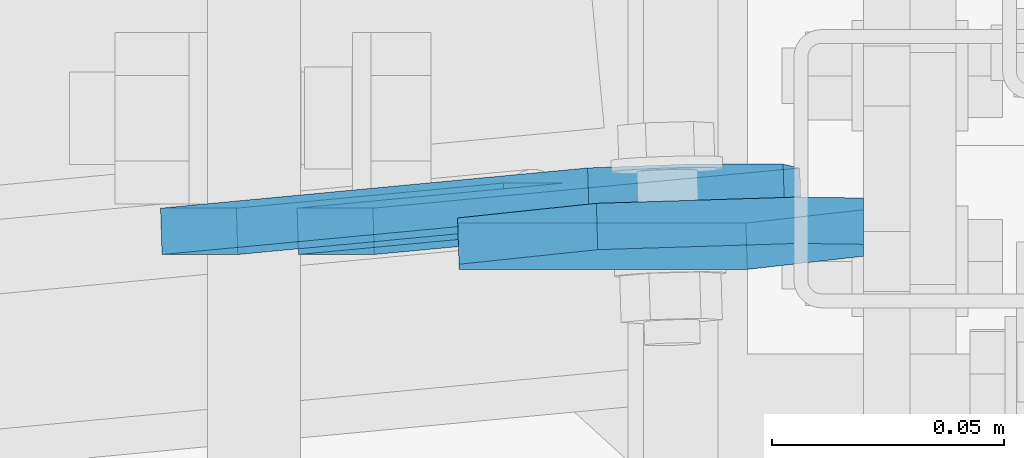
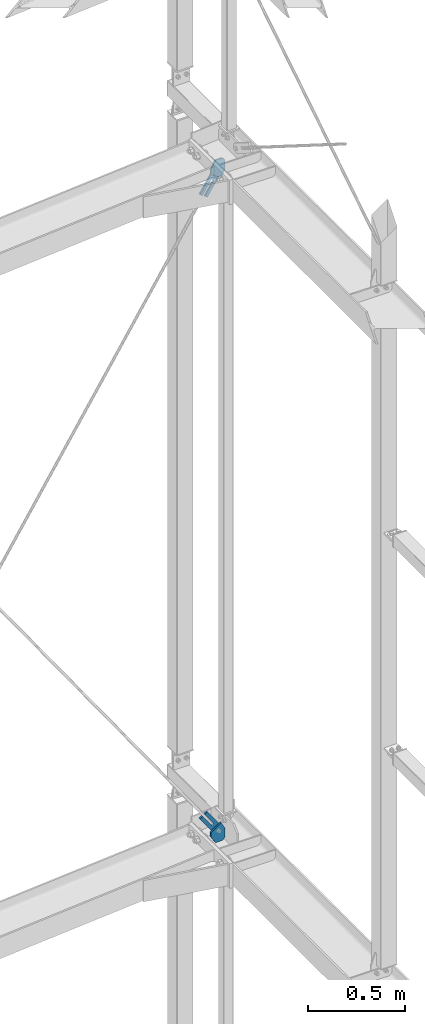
# One storey, part 186 of 271: 4 plates, 4 elements without a shape of their own.
"""IFC2X3 building model written with IfcOpenShell, lengths in millimetres."""

from ifc_helpers import new_model, si_unit, frame, origin_with_axes, place, context, subcontext, project, spatial, polyline, outline, extrude, boolean, material, type_object, element, aggregate, save


model = new_model("IFC2X3")

# Units and contexts
model_context = context("Model", 3, precision=1e-05, world=origin_with_axes())
body_context = subcontext(model_context, "Body", "Model", "MODEL_VIEW")
ifc_project = project(units=[si_unit("LENGTHUNIT", "METRE", prefix="MILLI"), si_unit("AREAUNIT", "SQUARE_METRE"), si_unit("VOLUMEUNIT", "CUBIC_METRE"), si_unit("MASSUNIT", "GRAM", prefix="KILO"), si_unit("TIMEUNIT", "SECOND"), si_unit("PLANEANGLEUNIT", "RADIAN"), si_unit("SOLIDANGLEUNIT", "STERADIAN"), si_unit("THERMODYNAMICTEMPERATUREUNIT", "DEGREE_CELSIUS"), si_unit("LUMINOUSINTENSITYUNIT", "LUMEN")], contexts=[model_context])

# Site, building, storey
site_placement = place(None, origin_with_axes())
site = spatial("IfcSite", under=ifc_project, at=site_placement, Name="Undefined", CompositionType="ELEMENT")
building_placement = place(site_placement, origin_with_axes())
building = spatial("IfcBuilding", under=site, at=building_placement, Name="Undefined", CompositionType="ELEMENT")
storey_placement = place(building_placement, origin_with_axes())
storey = spatial("IfcBuildingStorey", under=building, at=storey_placement, Name="Undefined", CompositionType="ELEMENT", Elevation=0.0)

# Assembly, plate
assembly_1_placement = place(storey_placement, origin_with_axes())
assembly_1 = element("IfcElementAssembly", 1, at=assembly_1_placement, inside=storey, AssemblyPlace="NOTDEFINED", PredefinedType="RIGID_FRAME")
ifc_material = material(Name="STEEL/S355JR")
plate_type_1 = type_object("IfcPlateType", Name="BL10*56", PredefinedType="NOTDEFINED")
plate_1_placement = place(assembly_1_placement, frame((12499.4460881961, 4287.34987445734, 18587.5411463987), z_axis=(-0.031225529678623, 0.998530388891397, -0.0442947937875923), x_axis=(0.984755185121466, 0.0383214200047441, 0.169672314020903)))
plate_1 = element("IfcPlate", 2, at=plate_1_placement, type_object=plate_type_1, material=ifc_material, Name="BLACHA", ObjectType="BL10*56", context=body_context, shape_type="SweptSolid", body=[
    extrude(outline(polyline([(0.0, 0.0), (21.2132034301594, 1.09139364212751e-11), (39.5979804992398, 18.3847751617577), (39.5979804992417, 39.5979804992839), (-73.5391082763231, 152.735061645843), (-87.6812438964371, 138.592926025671), (-16.9705638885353, 67.882247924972), (-28.2842712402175, 56.5685424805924), (-98.9949493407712, 127.279220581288), (-113.137084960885, 113.137084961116), (0.0, 0.0)])), frame((0.0, 0.0, -5.0), z_axis=(0.0, 0.0, 1.0), x_axis=(1.0, 0.0, 0.0)), (0.0, 0.0, 1.0), 10.0),
])
aggregate(assembly_1, [plate_1])

assembly_2_placement = place(storey_placement, origin_with_axes())
assembly_2 = element("IfcElementAssembly", 3, at=assembly_2_placement, inside=storey, AssemblyPlace="NOTDEFINED", PredefinedType="RIGID_FRAME")
plate_2_placement = place(assembly_2_placement, frame((12545.2164263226, 4287.34987446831, 14413.4245639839), z_axis=(-0.0312255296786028, 0.998530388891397, 0.0442947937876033), x_axis=(-0.171120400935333, 0.0383214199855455, -0.98450458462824)))
plate_2 = element("IfcPlate", 4, at=plate_2_placement, type_object=plate_type_1, material=ifc_material, Name="BLACHA", ObjectType="BL10*56", context=body_context, shape_type="SweptSolid", body=[
    extrude(outline(polyline([(0.0, 0.0), (21.2132034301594, 1.09139364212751e-11), (39.5979804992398, 18.3847751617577), (39.5979804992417, 39.5979804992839), (-73.5391082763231, 152.735061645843), (-87.6812438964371, 138.592926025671), (-16.9705638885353, 67.882247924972), (-28.2842712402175, 56.5685424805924), (-98.9949493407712, 127.279220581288), (-113.137084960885, 113.137084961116), (0.0, 0.0)])), frame((0.0, 0.0, -5.0), z_axis=(0.0, 0.0, 1.0), x_axis=(1.0, 0.0, 0.0)), (0.0, 0.0, 1.0), 10.0),
])
aggregate(assembly_2, [plate_2])

assembly_3_placement = place(storey_placement, origin_with_axes())
assembly_3 = element("IfcElementAssembly", 5, at=assembly_3_placement, inside=storey, AssemblyPlace="NOTDEFINED", PredefinedType="RIGID_FRAME")
plate_type_2 = type_object("IfcPlateType", Name="BL10*119", PredefinedType="NOTDEFINED")
plate_3_placement = place(assembly_3_placement, frame((12471.3447673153, 4278.78924167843, 18640.1077505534), z_axis=(-0.031225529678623, 0.998530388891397, -0.0442947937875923), x_axis=(0.999511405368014, 0.0312562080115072, 0.0)))
plate_3 = element("IfcPlate", 6, at=plate_3_placement, type_object=plate_type_2, material=ifc_material, Name="BLACHA", ObjectType="BL10*119", context=body_context, shape_type="CSG", body=[
    boolean("DIFFERENCE", boolean("DIFFERENCE", extrude(outline(polyline([(-2.52953213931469e-12, 50.0), (30.0, 1.17239551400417e-13), (126.438262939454, 3.5313973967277e-12), (62.0865364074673, 118.832199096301), (-3.89910326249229e-12, 74.99999999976), (-2.52953213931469e-12, 50.0)])), frame((0.0, 0.0, -5.0), z_axis=(0.0, 0.0, 1.0), x_axis=(1.0, 0.0, 0.0)), (0.0, 0.0, 1.0), 10.0), extrude(outline(polyline([(0.0, 0.0), (15.0, -1.59872115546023e-14), (0.0207920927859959, 15.0207634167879), (0.0207920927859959, 15.0207634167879), (0.0, 0.0)])), frame((87.6059856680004, -0.322875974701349, -4.99999998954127), z_axis=(0.0, 0.0, 1.0), x_axis=(-0.00138516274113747, 0.99999904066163, 4.69774913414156e-10)), (0.0, 0.0, 1.0), 10.0)), extrude(outline(polyline([(0.0, 0.0), (200.0, 0.0), (200.0, 110.0), (160.0, 150.0), (40.0, 150.0), (0.0, 110.0), (0.0, 0.0)])), frame((90.9084894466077, -5.84107744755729, 110.466594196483), z_axis=(0.999511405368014, 0.00138448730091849, -0.0312255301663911), x_axis=(-0.0312562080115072, 0.0442731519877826, -0.99853038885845)), (0.0, 0.0, 1.0), 100.0)),
])
aggregate(assembly_3, [plate_3])

assembly_4_placement = place(storey_placement, origin_with_axes())
assembly_4 = element("IfcElementAssembly", 7, at=assembly_4_placement, inside=storey, AssemblyPlace="NOTDEFINED", PredefinedType="RIGID_FRAME")
plate_4_placement = place(assembly_4_placement, frame((12597.7212530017, 4282.74122226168, 14328.5922492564), z_axis=(-0.0312255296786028, 0.998530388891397, 0.0442947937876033), x_axis=(-0.999511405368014, -0.0312562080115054, 0.0)))
plate_4 = element("IfcPlate", 8, at=plate_4_placement, type_object=plate_type_2, material=ifc_material, Name="BLACHA", ObjectType="BL10*119", context=body_context, shape_type="CSG", body=[
    boolean("DIFFERENCE", boolean("DIFFERENCE", extrude(outline(polyline([(0.0, 0.0), (96.4382629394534, 1.38739788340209e-12), (126.438262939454, 50.0000000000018), (126.438262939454, 75.0000000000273), (64.3517227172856, 118.832199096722), (0.0, 0.0)])), frame((0.0, 0.0, -5.0), z_axis=(0.0, 0.0, 1.0), x_axis=(1.0, 0.0, 0.0)), (0.0, 0.0, 1.0), 10.0), extrude(outline(polyline([(0.0, 0.0), (15.0, -1.59872115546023e-14), (0.0207920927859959, 15.0207634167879), (0.0207920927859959, 15.0207634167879), (0.0, 0.0)])), frame((38.83227707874, -0.322875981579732, 5.00000006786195), z_axis=(0.0, 0.0, -1.0), x_axis=(0.00138516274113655, 0.99999904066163, 4.69801683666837e-10)), (0.0, 0.0, 1.0), 10.0)), extrude(outline(polyline([(0.0, 0.0), (253.0, 0.0), (253.0, 110.0), (213.0, 150.0), (40.0, 150.0), (0.0, 110.0), (0.0, 0.0)])), frame((43.0000070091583, 4.74020587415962, -128.182168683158), z_axis=(-0.999511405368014, 0.0013844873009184, -0.0312255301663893), x_axis=(-0.0312562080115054, -0.0442731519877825, 0.99853038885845)), (0.0, 0.0, 1.0), 100.0)),
])
aggregate(assembly_4, [plate_4])

save(model, "model.ifc")
